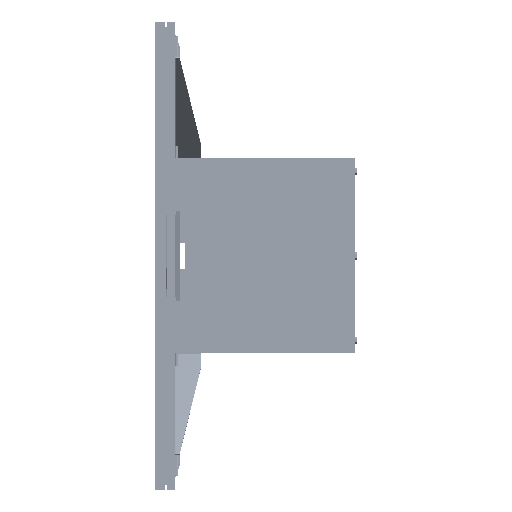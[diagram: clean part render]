
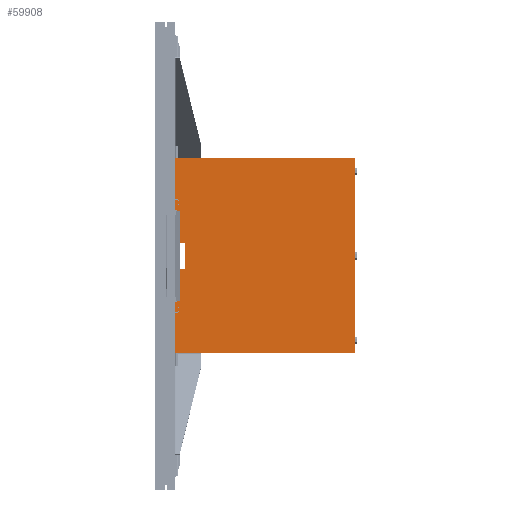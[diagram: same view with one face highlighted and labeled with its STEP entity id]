
A CAD part, left-side view. The second image highlights one B-rep face of the part: STEP entity #59908.
In plain terms, the highlighted planar face has unit normal (-1, 0, 0) as drawn and (0, 0, -1) by its records, which use the part's own axes.
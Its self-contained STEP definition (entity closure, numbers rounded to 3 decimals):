
#10105=FACE_OUTER_BOUND('',#13503,.T.);
#13503=EDGE_LOOP('',(#53731,#53732,#53733,#53734,#53735,#53736,#53737,#53738));
#19526=LINE('',#110388,#25802);
#19530=LINE('',#110397,#25806);
#19533=LINE('',#110401,#25809);
#19536=LINE('',#110407,#25812);
#19537=LINE('',#110410,#25813);
#19540=LINE('',#110416,#25816);
#19541=LINE('',#110418,#25817);
#19542=LINE('',#110419,#25818);
#25802=VECTOR('',#79902,0.394);
#25806=VECTOR('',#79908,0.394);
#25809=VECTOR('',#79913,0.394);
#25812=VECTOR('',#79918,0.394);
#25813=VECTOR('',#79921,0.394);
#25816=VECTOR('',#79926,0.394);
#25817=VECTOR('',#79927,0.394);
#25818=VECTOR('',#79928,0.394);
#31067=VERTEX_POINT('',#110385);
#31068=VERTEX_POINT('',#110387);
#31071=VERTEX_POINT('',#110394);
#31072=VERTEX_POINT('',#110396);
#31074=VERTEX_POINT('',#110405);
#31075=VERTEX_POINT('',#110409);
#31077=VERTEX_POINT('',#110415);
#31078=VERTEX_POINT('',#110417);
#38678=EDGE_CURVE('',#31068,#31067,#19526,.T.);
#38682=EDGE_CURVE('',#31072,#31071,#19530,.T.);
#38685=EDGE_CURVE('',#31067,#31072,#19533,.T.);
#38688=EDGE_CURVE('',#31074,#31071,#19536,.T.);
#38689=EDGE_CURVE('',#31068,#31075,#19537,.T.);
#38692=EDGE_CURVE('',#31077,#31074,#19540,.T.);
#38693=EDGE_CURVE('',#31077,#31078,#19541,.T.);
#38694=EDGE_CURVE('',#31078,#31075,#19542,.T.);
#53731=ORIENTED_EDGE('',*,*,#38678,.T.);
#53732=ORIENTED_EDGE('',*,*,#38685,.T.);
#53733=ORIENTED_EDGE('',*,*,#38682,.T.);
#53734=ORIENTED_EDGE('',*,*,#38688,.F.);
#53735=ORIENTED_EDGE('',*,*,#38692,.F.);
#53736=ORIENTED_EDGE('',*,*,#38693,.T.);
#53737=ORIENTED_EDGE('',*,*,#38694,.T.);
#53738=ORIENTED_EDGE('',*,*,#38689,.F.);
#56922=PLANE('',#65530);
#59908=ADVANCED_FACE('',(#10105),#56922,.T.);
#65530=AXIS2_PLACEMENT_3D('',#110414,#79924,#79925);
#79902=DIRECTION('',(0.,-1.,0.));
#79908=DIRECTION('',(0.,1.,0.));
#79913=DIRECTION('',(1.,0.,0.));
#79918=DIRECTION('',(-1.,0.,0.));
#79921=DIRECTION('',(-1.,0.,0.));
#79924=DIRECTION('center_axis',(0.,0.,-1.));
#79925=DIRECTION('ref_axis',(-1.,0.,0.));
#79926=DIRECTION('',(0.,1.,0.));
#79927=DIRECTION('',(-1.,0.,0.));
#79928=DIRECTION('',(0.,1.,0.));
#110385=CARTESIAN_POINT('',(13.,26.25,-10.));
#110387=CARTESIAN_POINT('',(13.,27.75,-10.));
#110388=CARTESIAN_POINT('',(13.,13.875,-10.));
#110394=CARTESIAN_POINT('',(17.,27.75,-10.));
#110396=CARTESIAN_POINT('',(17.,26.25,-10.));
#110397=CARTESIAN_POINT('',(17.,13.125,-10.));
#110401=CARTESIAN_POINT('',(21.5,26.25,-10.));
#110405=CARTESIAN_POINT('',(30.,27.75,-10.));
#110407=CARTESIAN_POINT('',(30.,27.75,-10.));
#110409=CARTESIAN_POINT('',(0.,27.75,-10.));
#110410=CARTESIAN_POINT('',(30.,27.75,-10.));
#110414=CARTESIAN_POINT('Origin',(30.,0.,-10.));
#110415=CARTESIAN_POINT('',(30.,0.,-10.));
#110416=CARTESIAN_POINT('',(30.,0.,-10.));
#110417=CARTESIAN_POINT('',(0.,0.,-10.));
#110418=CARTESIAN_POINT('',(30.,0.,-10.));
#110419=CARTESIAN_POINT('',(0.,0.,-10.));
